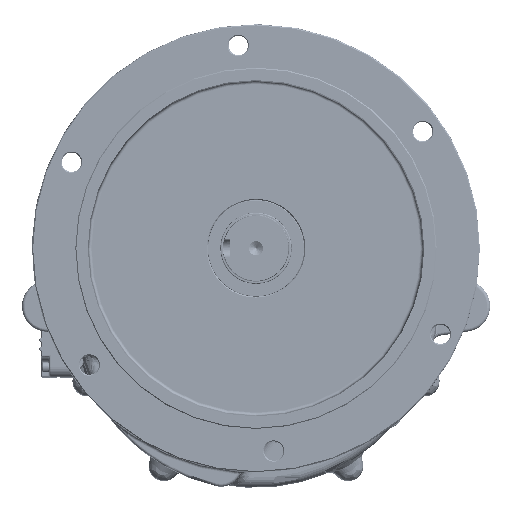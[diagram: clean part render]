
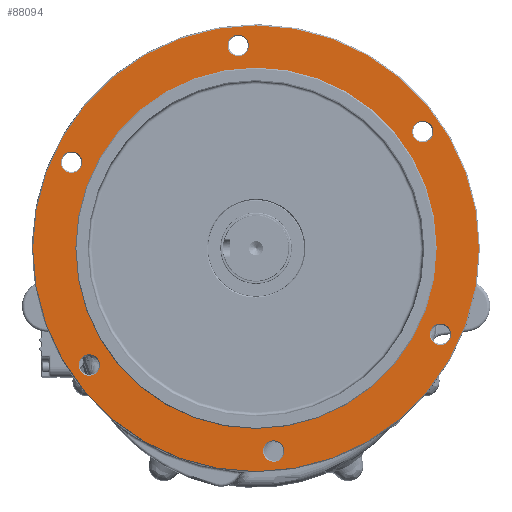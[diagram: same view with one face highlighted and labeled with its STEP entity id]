
A CAD part, front view. The second image highlights one B-rep face of the part: STEP entity #88094.
In plain terms, the highlighted planar face has unit normal (0, -1, 0).
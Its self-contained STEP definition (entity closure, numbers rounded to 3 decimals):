
#2279=FACE_BOUND('',#13157,.T.);
#2280=FACE_BOUND('',#13158,.T.);
#2281=FACE_BOUND('',#13159,.T.);
#2282=FACE_BOUND('',#13160,.T.);
#2283=FACE_BOUND('',#13161,.T.);
#2284=FACE_BOUND('',#13162,.T.);
#2285=FACE_BOUND('',#13163,.T.);
#4123=PLANE('',#95643);
#7701=FACE_OUTER_BOUND('',#13156,.T.);
#13156=EDGE_LOOP('',(#66539));
#13157=EDGE_LOOP('',(#66540));
#13158=EDGE_LOOP('',(#66541));
#13159=EDGE_LOOP('',(#66542));
#13160=EDGE_LOOP('',(#66543));
#13161=EDGE_LOOP('',(#66544));
#13162=EDGE_LOOP('',(#66545));
#13163=EDGE_LOOP('',(#66546));
#18607=CIRCLE('',#95640,10.5);
#18610=CIRCLE('',#95644,219.);
#18611=CIRCLE('',#95645,10.5);
#18612=CIRCLE('',#95646,10.5);
#18613=CIRCLE('',#95647,10.5);
#18614=CIRCLE('',#95648,177.5);
#18615=CIRCLE('',#95649,10.5);
#18616=CIRCLE('',#95650,10.5);
#36589=VERTEX_POINT('',#182415);
#36592=VERTEX_POINT('',#182423);
#36593=VERTEX_POINT('',#182425);
#36594=VERTEX_POINT('',#182427);
#36595=VERTEX_POINT('',#182429);
#36596=VERTEX_POINT('',#182431);
#36597=VERTEX_POINT('',#182433);
#36598=VERTEX_POINT('',#182435);
#47109=EDGE_CURVE('',#36589,#36589,#18607,.T.);
#47113=EDGE_CURVE('',#36592,#36592,#18610,.T.);
#47114=EDGE_CURVE('',#36593,#36593,#18611,.T.);
#47115=EDGE_CURVE('',#36594,#36594,#18612,.T.);
#47116=EDGE_CURVE('',#36595,#36595,#18613,.T.);
#47117=EDGE_CURVE('',#36596,#36596,#18614,.T.);
#47118=EDGE_CURVE('',#36597,#36597,#18615,.T.);
#47119=EDGE_CURVE('',#36598,#36598,#18616,.T.);
#66539=ORIENTED_EDGE('',*,*,#47113,.F.);
#66540=ORIENTED_EDGE('',*,*,#47114,.F.);
#66541=ORIENTED_EDGE('',*,*,#47115,.F.);
#66542=ORIENTED_EDGE('',*,*,#47116,.F.);
#66543=ORIENTED_EDGE('',*,*,#47117,.F.);
#66544=ORIENTED_EDGE('',*,*,#47118,.F.);
#66545=ORIENTED_EDGE('',*,*,#47119,.F.);
#66546=ORIENTED_EDGE('',*,*,#47109,.F.);
#88094=ADVANCED_FACE('',(#7701,#2279,#2280,#2281,#2282,#2283,#2284,#2285),
#4123,.T.);
#95640=AXIS2_PLACEMENT_3D('',#182416,#110831,#110832);
#95643=AXIS2_PLACEMENT_3D('',#182422,#110838,#110839);
#95644=AXIS2_PLACEMENT_3D('',#182424,#110840,#110841);
#95645=AXIS2_PLACEMENT_3D('',#182426,#110842,#110843);
#95646=AXIS2_PLACEMENT_3D('',#182428,#110844,#110845);
#95647=AXIS2_PLACEMENT_3D('',#182430,#110846,#110847);
#95648=AXIS2_PLACEMENT_3D('',#182432,#110848,#110849);
#95649=AXIS2_PLACEMENT_3D('',#182434,#110850,#110851);
#95650=AXIS2_PLACEMENT_3D('',#182436,#110852,#110853);
#110831=DIRECTION('center_axis',(0.,-1.,0.));
#110832=DIRECTION('ref_axis',(-0.5,0.,-0.866));
#110838=DIRECTION('center_axis',(0.,-1.,0.));
#110839=DIRECTION('ref_axis',(0.,0.,-1.));
#110840=DIRECTION('center_axis',(0.,1.,0.));
#110841=DIRECTION('ref_axis',(-1.,0.,0.));
#110842=DIRECTION('center_axis',(0.,-1.,0.));
#110843=DIRECTION('ref_axis',(0.5,0.,-0.866));
#110844=DIRECTION('center_axis',(0.,-1.,0.));
#110845=DIRECTION('ref_axis',(0.5,0.,0.866));
#110846=DIRECTION('center_axis',(0.,-1.,0.));
#110847=DIRECTION('ref_axis',(-1.,0.,0.));
#110848=DIRECTION('center_axis',(0.,-1.,0.));
#110849=DIRECTION('ref_axis',(-1.,0.,0.));
#110850=DIRECTION('center_axis',(0.,-1.,0.));
#110851=DIRECTION('ref_axis',(-0.5,0.,0.866));
#110852=DIRECTION('center_axis',(0.,-1.,0.));
#110853=DIRECTION('ref_axis',(1.,0.,0.));
#182415=CARTESIAN_POINT('',(-175.783,-228.728,148.867));
#182416=CARTESIAN_POINT('Origin',(-181.033,-228.728,139.774));
#182422=CARTESIAN_POINT('Origin',(0.228,-228.728,55.25));
#182423=CARTESIAN_POINT('',(219.228,-228.728,55.25));
#182424=CARTESIAN_POINT('Origin',(0.228,-228.728,55.25));
#182425=CARTESIAN_POINT('',(-168.852,-228.728,-50.372));
#182426=CARTESIAN_POINT('Origin',(-163.602,-228.728,-59.465));
#182427=CARTESIAN_POINT('',(176.24,-228.728,-38.367));
#182428=CARTESIAN_POINT('Origin',(181.49,-228.728,-29.274));
#182429=CARTESIAN_POINT('',(-6.703,-228.728,254.489));
#182430=CARTESIAN_POINT('Origin',(-17.203,-228.728,254.489));
#182431=CARTESIAN_POINT('',(177.728,-228.728,55.25));
#182432=CARTESIAN_POINT('Origin',(0.228,-228.728,55.25));
#182433=CARTESIAN_POINT('',(169.309,-228.728,160.872));
#182434=CARTESIAN_POINT('Origin',(164.059,-228.728,169.965));
#182435=CARTESIAN_POINT('',(7.16,-228.728,-143.989));
#182436=CARTESIAN_POINT('Origin',(17.66,-228.728,-143.989));
